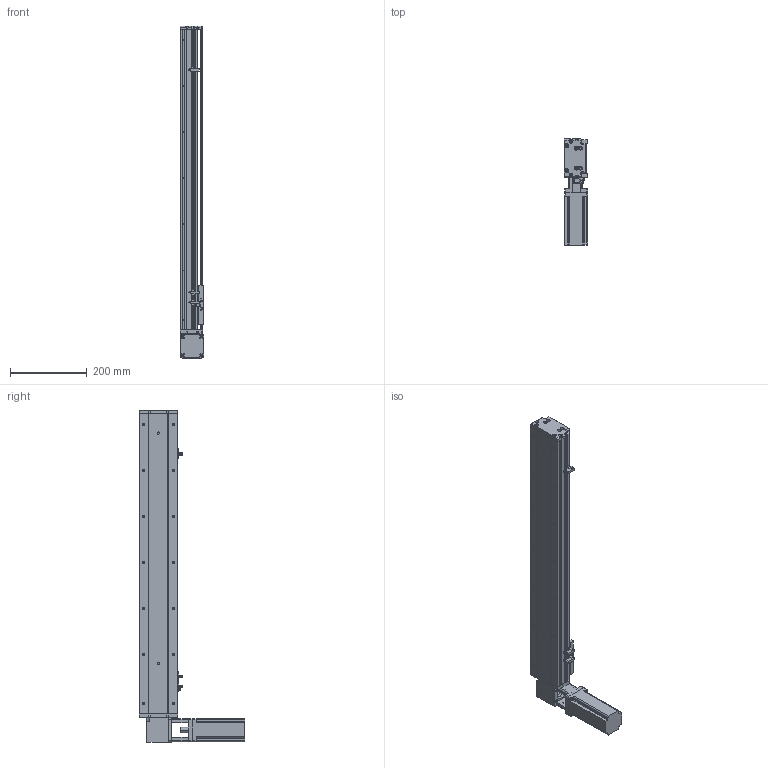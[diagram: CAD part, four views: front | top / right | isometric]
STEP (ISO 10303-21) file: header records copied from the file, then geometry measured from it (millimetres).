
FILE_DESCRIPTION (( 'STEP AP214' ), '1' );
FILE_NAME ('KSD100B-S600-MLT-CM.STEP', '2019-10-26T05:49:12', ( '微软用户' ), ( '微软中国' ), 'SwSTEP 2.0', 'SolidWorks 2014', '' );
FILE_SCHEMA (( 'AUTOMOTIVE_DESIGN' ));
Length unit declared in the file: millimetre
Products named in the file (12): 100宽底板半封闭同步带600行程; KSD100B-S600-MLT-CM; 100宽安装板同步带带电机座400W,86; 100遵鎮湛假蚾啣1 ; 100宽防尘板600行程-同步带; U倰嫖萇EEㄜSX672; 覜茼え100遵圉猾敕; 台达ECMA－C20604AS伺服电机; 100宽马达安装板同步带右; 100宽同步带安装板半封闭; 100宽马达安装板同步带; 100遵傷啣肮祭湍
Assembly tree (13 placements, depth 2):
  KSD100B-S600-MLT-CM
    100宽底板半封闭同步带600行程
    100遵傷啣肮祭湍
    100宽马达安装板同步带
    100宽同步带安装板半封闭
    100宽马达安装板同步带右
    台达ECMA－C20604AS伺服电机
    覜茼え100遵圉猾敕
    U倰嫖萇EEㄜSX672  x3
    100宽防尘板600行程-同步带
    100遵鎮湛假蚾啣1 
    100宽安装板同步带带电机座400W,86
Bounding box: 61 x 275 x 865 mm (x, y, z)
Volume: 2153149.4 mm3; surface area: 673313.6 mm2
Topology: 14 solids, 14 shells, 1346 faces, 3763 edges, 2407 vertices
Faces by surface type: cylinder 672, plane 563, cone 111
Entity records: 46159 total; most frequent: CARTESIAN_POINT 8814, DIRECTION 6511, ORIENTED_EDGE 6210, EDGE_CURVE 3105, AXIS2_PLACEMENT_3D 2386, VERTEX_POINT 2031, LINE 1739, VECTOR 1739
